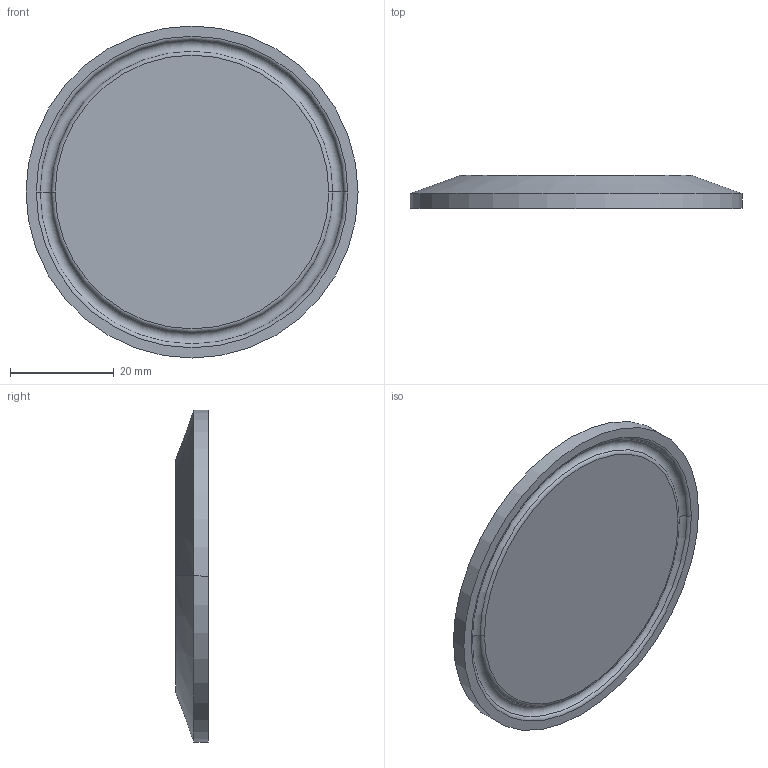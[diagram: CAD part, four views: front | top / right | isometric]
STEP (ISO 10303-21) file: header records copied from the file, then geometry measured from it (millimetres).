
FILE_DESCRIPTION (( 'STEP AP203' ), '1' );
FILE_NAME ('TEG16A6L2.0.STEP', '2022-01-07T17:23:50', ( '' ), ( '' ), 'SwSTEP 2.0', 'SolidWorks 2021', '' );
FILE_SCHEMA (( 'CONFIG_CONTROL_DESIGN' ));
Length unit declared in the file: inch
Products named in the file (1): TEG16A6L2.0
Bounding box: 63.91 x 6.35 x 63.91 mm (x, y, z)
Volume: 16901 mm3; surface area: 7263.1 mm2
Topology: 1 solids, 1 shells, 13 faces, 24 edges, 14 vertices
Faces by surface type: torus 6, plane 3, cylinder 2, cone 2
Entity records: 409 total; most frequent: DIRECTION 72, CARTESIAN_POINT 52, ORIENTED_EDGE 48, AXIS2_PLACEMENT_3D 34, EDGE_CURVE 24, CIRCLE 20, EDGE_LOOP 14, VERTEX_POINT 14
